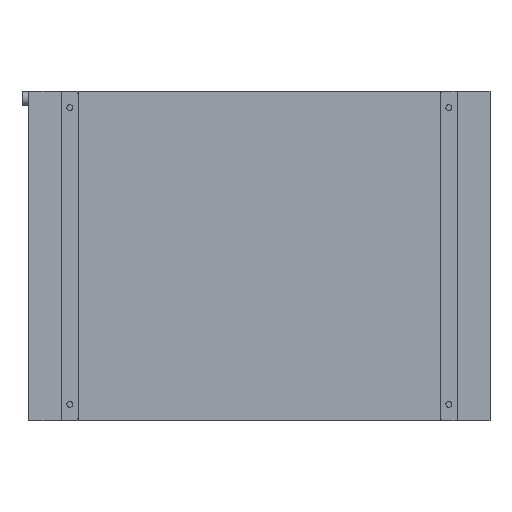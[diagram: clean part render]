
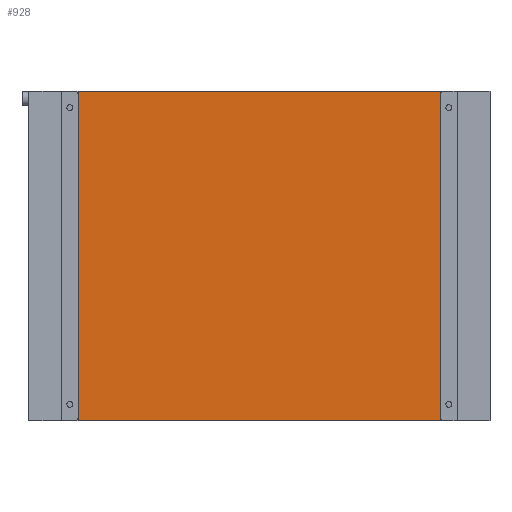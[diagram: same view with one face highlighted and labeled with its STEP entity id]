
A CAD part, front view. The second image highlights one B-rep face of the part: STEP entity #928.
In plain terms, the highlighted planar face has unit normal (0, -1, 0).
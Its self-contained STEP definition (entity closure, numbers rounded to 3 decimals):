
#296 = CARTESIAN_POINT ( 'NONE',  ( -700., 0., -500. ) ) ;
#305 = LINE ( 'NONE', #1982, #1746 ) ;
#367 = DIRECTION ( 'NONE',  ( -1., 0., 0. ) ) ;
#568 = EDGE_CURVE ( 'NONE', #2519, #2809, #3036, .T. ) ;
#622 = EDGE_CURVE ( 'NONE', #2809, #3328, #2850, .T. ) ;
#928 = ADVANCED_FACE ( 'NONE', ( #3218 ), #2500, .T. ) ;
#958 = LINE ( 'NONE', #1213, #1726 ) ;
#1213 = CARTESIAN_POINT ( 'NONE',  ( -550., 0., 500. ) ) ;
#1245 = CARTESIAN_POINT ( 'NONE',  ( 550., 0., 500. ) ) ;
#1631 = VERTEX_POINT ( 'NONE', #3030 ) ;
#1726 = VECTOR ( 'NONE', #2087, 1000. ) ;
#1746 = VECTOR ( 'NONE', #2281, 1000. ) ;
#1805 = ORIENTED_EDGE ( 'NONE', *, *, #622, .F. ) ;
#1982 = CARTESIAN_POINT ( 'NONE',  ( -700., 0., 500. ) ) ;
#2028 = DIRECTION ( 'NONE',  ( 0., 0., -1. ) ) ;
#2040 = VECTOR ( 'NONE', #367, 1000. ) ;
#2087 = DIRECTION ( 'NONE',  ( 0., 0., -1. ) ) ;
#2165 = AXIS2_PLACEMENT_3D ( 'NONE', #2578, #2748, #2782 ) ;
#2226 = VECTOR ( 'NONE', #2028, 1000. ) ;
#2281 = DIRECTION ( 'NONE',  ( 1., 0., 0. ) ) ;
#2411 = ORIENTED_EDGE ( 'NONE', *, *, #2545, .F. ) ;
#2500 = PLANE ( 'NONE',  #2165 ) ;
#2516 = ORIENTED_EDGE ( 'NONE', *, *, #568, .F. ) ;
#2519 = VERTEX_POINT ( 'NONE', #2576 ) ;
#2545 = EDGE_CURVE ( 'NONE', #1631, #2519, #305, .T. ) ;
#2576 = CARTESIAN_POINT ( 'NONE',  ( 550., 0., 500. ) ) ;
#2578 = CARTESIAN_POINT ( 'NONE',  ( 0., 0., 0. ) ) ;
#2732 = CARTESIAN_POINT ( 'NONE',  ( 550., 0., -500. ) ) ;
#2748 = DIRECTION ( 'NONE',  ( 0., -1., 0. ) ) ;
#2782 = DIRECTION ( 'NONE',  ( 0., 0., -1. ) ) ;
#2809 = VERTEX_POINT ( 'NONE', #2732 ) ;
#2850 = LINE ( 'NONE', #296, #2040 ) ;
#2882 = EDGE_LOOP ( 'NONE', ( #1805, #2516, #2411, #3307 ) ) ;
#3030 = CARTESIAN_POINT ( 'NONE',  ( -550., 0., 500. ) ) ;
#3036 = LINE ( 'NONE', #1245, #2226 ) ;
#3218 = FACE_OUTER_BOUND ( 'NONE', #2882, .T. ) ;
#3274 = EDGE_CURVE ( 'NONE', #1631, #3328, #958, .T. ) ;
#3307 = ORIENTED_EDGE ( 'NONE', *, *, #3274, .T. ) ;
#3328 = VERTEX_POINT ( 'NONE', #3615 ) ;
#3615 = CARTESIAN_POINT ( 'NONE',  ( -550., 0., -500. ) ) ;
